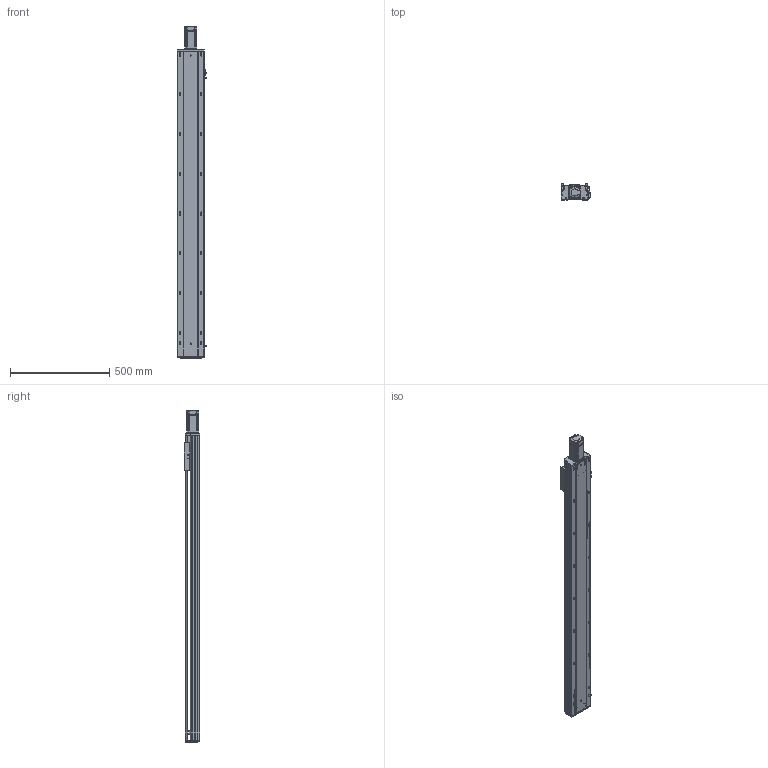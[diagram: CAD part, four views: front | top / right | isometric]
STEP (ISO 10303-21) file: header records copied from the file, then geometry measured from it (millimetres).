
FILE_DESCRIPTION (( 'STEP AP203' ), '1' );
FILE_NAME ('RY140Q-L2010-1000-MK.SLDASM_1300.step', '2021-05-27T07:34:47', ( '盈信电脑' ), ( '东莞市道滘镇水果街19号' ), 'SwSTEP 2.0', 'SolidWorks 2016', '' );
FILE_SCHEMA (( 'CONFIG_CONTROL_DESIGN' ));
Length unit declared in the file: millimetre
Products named in the file (13): RY120外置感应片(140共用）; 滅袉蝶18-10; RY140Q-1000-MK倰第奻裔啣_1300; 侂狟400W侜督萇儂; RY140Q臏賑輸(20佪裝-J; 滅袉蝶18-15; RY140Q-1000-MK倰第菁釱_1300; RY140ヶ裔啣; RY140Q-L2010-1000-MK.SLDASM_1300; 覜茼ん672; 15; RY140Q萇儂傷盓傅釱FK12(80.5酗M5); RY140綴裔啣
Assembly tree (15 placements, depth 3):
  RY140Q-L2010-1000-MK.SLDASM_1300
    RY140Q-1000-MK倰第菁釱_1300
    RY140Q臏賑輸(20佪裝-J
    RY140Q-1000-MK倰第奻裔啣_1300
    RY140ヶ裔啣
    侂狟400W侜督萇儂
      15
    RY140綴裔啣
    覜茼ん672  x3
    RY120外置感应片(140共用）
    RY140Q萇儂傷盓傅釱FK12(80.5酗M5)
    滅袉蝶18-10
    滅袉蝶18-15  x2
Bounding box: 148.7 x 78 x 1669.5 mm (x, y, z)
Volume: 4551060.5 mm3; surface area: 1697739.1 mm2
Topology: 14 solids, 14 shells, 2202 faces, 6105 edges, 3885 vertices
Faces by surface type: plane 1086, cylinder 800, cone 231, bspline 85
Entity records: 72637 total; most frequent: CARTESIAN_POINT 17388, ORIENTED_EDGE 11430, DIRECTION 10907, EDGE_CURVE 5715, VERTEX_POINT 3745, AXIS2_PLACEMENT_3D 3649, VECTOR 3609, LINE 3609
